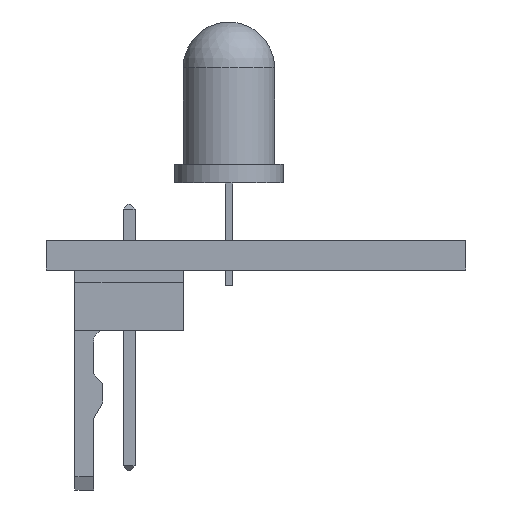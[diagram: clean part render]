
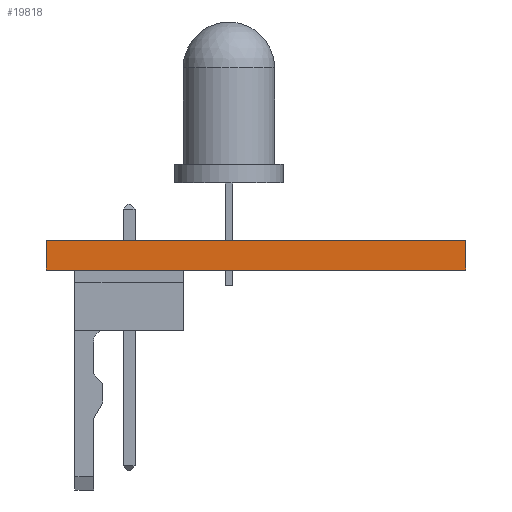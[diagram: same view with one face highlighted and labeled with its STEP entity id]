
A CAD part, left-side view. The second image highlights one B-rep face of the part: STEP entity #19818.
In plain terms, the highlighted planar face has unit normal (-1, 0, 0).
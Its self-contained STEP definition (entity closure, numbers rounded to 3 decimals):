
#19818 = ADVANCED_FACE('',(#19819),#19833,.T.);
#19819 = FACE_BOUND('',#19820,.T.);
#19820 = EDGE_LOOP('',(#19821,#19856,#19884,#19912));
#19821 = ORIENTED_EDGE('',*,*,#19822,.T.);
#19822 = EDGE_CURVE('',#19823,#19825,#19827,.T.);
#19823 = VERTEX_POINT('',#19824);
#19824 = CARTESIAN_POINT('',(50.94,-100.482,0.));
#19825 = VERTEX_POINT('',#19826);
#19826 = CARTESIAN_POINT('',(50.94,-100.482,1.6));
#19827 = SURFACE_CURVE('',#19828,(#19832,#19844),.PCURVE_S1.);
#19828 = LINE('',#19829,#19830);
#19829 = CARTESIAN_POINT('',(50.94,-100.482,0.));
#19830 = VECTOR('',#19831,1.);
#19831 = DIRECTION('',(0.,0.,1.));
#19832 = PCURVE('',#19833,#19838);
#19833 = PLANE('',#19834);
#19834 = AXIS2_PLACEMENT_3D('',#19835,#19836,#19837);
#19835 = CARTESIAN_POINT('',(50.94,-100.482,0.));
#19836 = DIRECTION('',(-1.,0.,0.));
#19837 = DIRECTION('',(0.,1.,0.));
#19838 = DEFINITIONAL_REPRESENTATION('',(#19839),#19843);
#19839 = LINE('',#19840,#19841);
#19840 = CARTESIAN_POINT('',(0.,0.));
#19841 = VECTOR('',#19842,1.);
#19842 = DIRECTION('',(0.,-1.));
#19843 = ( GEOMETRIC_REPRESENTATION_CONTEXT(2) 
PARAMETRIC_REPRESENTATION_CONTEXT() REPRESENTATION_CONTEXT('2D SPACE',''
  ) );
#19844 = PCURVE('',#19845,#19850);
#19845 = PLANE('',#19846);
#19846 = AXIS2_PLACEMENT_3D('',#19847,#19848,#19849);
#19847 = CARTESIAN_POINT('',(242.532,-100.482,0.));
#19848 = DIRECTION('',(0.,-1.,0.));
#19849 = DIRECTION('',(-1.,0.,0.));
#19850 = DEFINITIONAL_REPRESENTATION('',(#19851),#19855);
#19851 = LINE('',#19852,#19853);
#19852 = CARTESIAN_POINT('',(191.592,0.));
#19853 = VECTOR('',#19854,1.);
#19854 = DIRECTION('',(0.,-1.));
#19855 = ( GEOMETRIC_REPRESENTATION_CONTEXT(2) 
PARAMETRIC_REPRESENTATION_CONTEXT() REPRESENTATION_CONTEXT('2D SPACE',''
  ) );
#19856 = ORIENTED_EDGE('',*,*,#19857,.T.);
#19857 = EDGE_CURVE('',#19825,#19858,#19860,.T.);
#19858 = VERTEX_POINT('',#19859);
#19859 = CARTESIAN_POINT('',(50.94,-78.08,1.6));
#19860 = SURFACE_CURVE('',#19861,(#19865,#19872),.PCURVE_S1.);
#19861 = LINE('',#19862,#19863);
#19862 = CARTESIAN_POINT('',(50.94,-100.482,1.6));
#19863 = VECTOR('',#19864,1.);
#19864 = DIRECTION('',(0.,1.,0.));
#19865 = PCURVE('',#19833,#19866);
#19866 = DEFINITIONAL_REPRESENTATION('',(#19867),#19871);
#19867 = LINE('',#19868,#19869);
#19868 = CARTESIAN_POINT('',(0.,-1.6));
#19869 = VECTOR('',#19870,1.);
#19870 = DIRECTION('',(1.,0.));
#19871 = ( GEOMETRIC_REPRESENTATION_CONTEXT(2) 
PARAMETRIC_REPRESENTATION_CONTEXT() REPRESENTATION_CONTEXT('2D SPACE',''
  ) );
#19872 = PCURVE('',#19873,#19878);
#19873 = PLANE('',#19874);
#19874 = AXIS2_PLACEMENT_3D('',#19875,#19876,#19877);
#19875 = CARTESIAN_POINT('',(146.736,-89.281,1.6));
#19876 = DIRECTION('',(-0.,-0.,-1.));
#19877 = DIRECTION('',(-1.,0.,0.));
#19878 = DEFINITIONAL_REPRESENTATION('',(#19879),#19883);
#19879 = LINE('',#19880,#19881);
#19880 = CARTESIAN_POINT('',(95.796,-11.201));
#19881 = VECTOR('',#19882,1.);
#19882 = DIRECTION('',(0.,1.));
#19883 = ( GEOMETRIC_REPRESENTATION_CONTEXT(2) 
PARAMETRIC_REPRESENTATION_CONTEXT() REPRESENTATION_CONTEXT('2D SPACE',''
  ) );
#19884 = ORIENTED_EDGE('',*,*,#19885,.F.);
#19885 = EDGE_CURVE('',#19886,#19858,#19888,.T.);
#19886 = VERTEX_POINT('',#19887);
#19887 = CARTESIAN_POINT('',(50.94,-78.08,0.));
#19888 = SURFACE_CURVE('',#19889,(#19893,#19900),.PCURVE_S1.);
#19889 = LINE('',#19890,#19891);
#19890 = CARTESIAN_POINT('',(50.94,-78.08,0.));
#19891 = VECTOR('',#19892,1.);
#19892 = DIRECTION('',(0.,0.,1.));
#19893 = PCURVE('',#19833,#19894);
#19894 = DEFINITIONAL_REPRESENTATION('',(#19895),#19899);
#19895 = LINE('',#19896,#19897);
#19896 = CARTESIAN_POINT('',(22.403,0.));
#19897 = VECTOR('',#19898,1.);
#19898 = DIRECTION('',(0.,-1.));
#19899 = ( GEOMETRIC_REPRESENTATION_CONTEXT(2) 
PARAMETRIC_REPRESENTATION_CONTEXT() REPRESENTATION_CONTEXT('2D SPACE',''
  ) );
#19900 = PCURVE('',#19901,#19906);
#19901 = PLANE('',#19902);
#19902 = AXIS2_PLACEMENT_3D('',#19903,#19904,#19905);
#19903 = CARTESIAN_POINT('',(50.94,-78.08,0.));
#19904 = DIRECTION('',(0.,1.,0.));
#19905 = DIRECTION('',(1.,0.,0.));
#19906 = DEFINITIONAL_REPRESENTATION('',(#19907),#19911);
#19907 = LINE('',#19908,#19909);
#19908 = CARTESIAN_POINT('',(0.,0.));
#19909 = VECTOR('',#19910,1.);
#19910 = DIRECTION('',(0.,-1.));
#19911 = ( GEOMETRIC_REPRESENTATION_CONTEXT(2) 
PARAMETRIC_REPRESENTATION_CONTEXT() REPRESENTATION_CONTEXT('2D SPACE',''
  ) );
#19912 = ORIENTED_EDGE('',*,*,#19913,.F.);
#19913 = EDGE_CURVE('',#19823,#19886,#19914,.T.);
#19914 = SURFACE_CURVE('',#19915,(#19919,#19926),.PCURVE_S1.);
#19915 = LINE('',#19916,#19917);
#19916 = CARTESIAN_POINT('',(50.94,-100.482,0.));
#19917 = VECTOR('',#19918,1.);
#19918 = DIRECTION('',(0.,1.,0.));
#19919 = PCURVE('',#19833,#19920);
#19920 = DEFINITIONAL_REPRESENTATION('',(#19921),#19925);
#19921 = LINE('',#19922,#19923);
#19922 = CARTESIAN_POINT('',(0.,0.));
#19923 = VECTOR('',#19924,1.);
#19924 = DIRECTION('',(1.,0.));
#19925 = ( GEOMETRIC_REPRESENTATION_CONTEXT(2) 
PARAMETRIC_REPRESENTATION_CONTEXT() REPRESENTATION_CONTEXT('2D SPACE',''
  ) );
#19926 = PCURVE('',#19927,#19932);
#19927 = PLANE('',#19928);
#19928 = AXIS2_PLACEMENT_3D('',#19929,#19930,#19931);
#19929 = CARTESIAN_POINT('',(146.736,-89.281,0.));
#19930 = DIRECTION('',(-0.,-0.,-1.));
#19931 = DIRECTION('',(-1.,0.,0.));
#19932 = DEFINITIONAL_REPRESENTATION('',(#19933),#19937);
#19933 = LINE('',#19934,#19935);
#19934 = CARTESIAN_POINT('',(95.796,-11.201));
#19935 = VECTOR('',#19936,1.);
#19936 = DIRECTION('',(0.,1.));
#19937 = ( GEOMETRIC_REPRESENTATION_CONTEXT(2) 
PARAMETRIC_REPRESENTATION_CONTEXT() REPRESENTATION_CONTEXT('2D SPACE',''
  ) );
